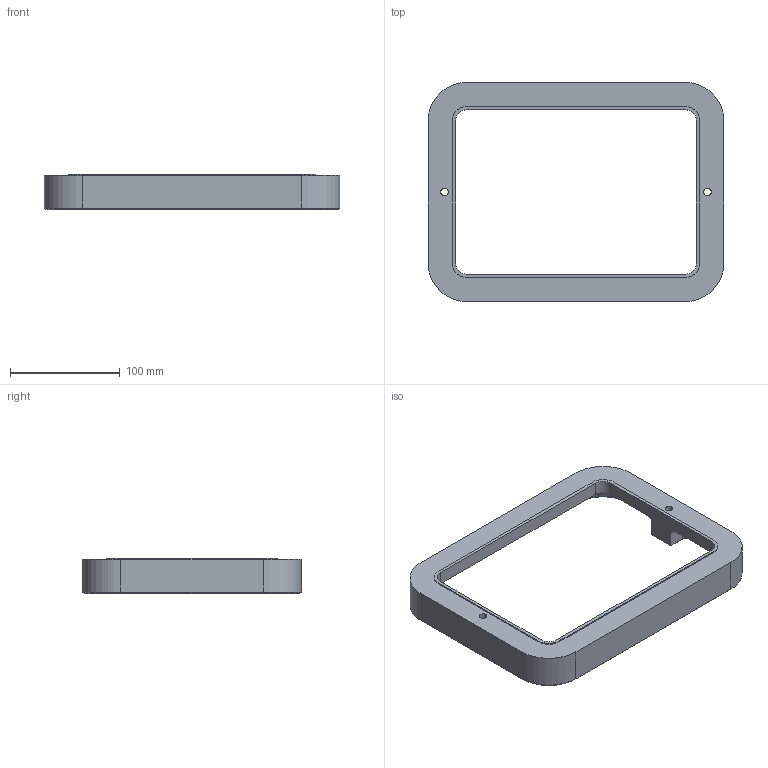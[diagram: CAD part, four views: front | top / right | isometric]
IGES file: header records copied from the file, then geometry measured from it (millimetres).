
Start section: IGES file generated from Kompas f.0 for Windows drawing by the IGES translator from Ascon Ltd., translator version IGESOUT-5.1.
Global section: file name: C:\Documents and Settings\krasnov.nv\Ðàáî÷èé ñòîë\ðàìêà.igs; native system: Kompas( 32 bit ) for Windows; preprocessor: 1.0; author: unknown; organization: unknown; date: -17820101:050205; units: millimetre
Bounding box: 270 x 200 x 32.5 mm (x, y, z)
Surface area: 88409.9 mm2 (no closed solid volume)
Topology: 0 solids, 0 shells, 83 faces, 396 edges, 396 vertices
Faces by surface type: revolution 42, bspline 41
